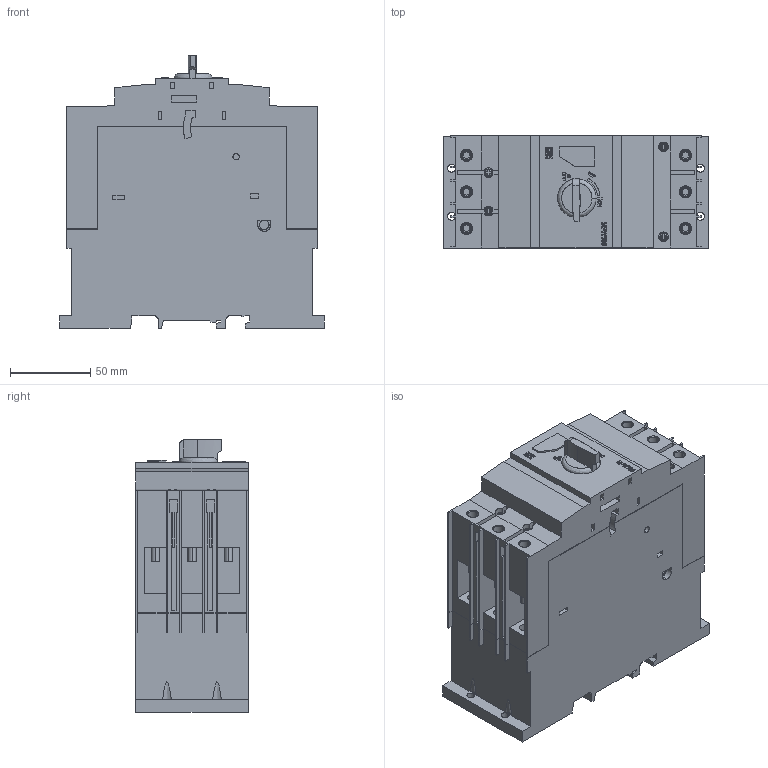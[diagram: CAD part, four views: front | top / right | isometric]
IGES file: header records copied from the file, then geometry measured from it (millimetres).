
Start section: SolidWorks IGES file using analytic representation for surfaces
Global section: file name: Q:\GROUPS\BR_SC_JGS_WA_TECNICO\ENG\Usuarios\Rodrigob\conversão\Disjuntor Motor\Produto\MPW100\MPW100.IGS; native system: SolidWorks 2009; preprocessor: SolidWorks 2009; author: rodrigob; date: 100520.101903; units: millimetre
Bounding box: 165 x 70 x 170 mm (x, y, z)
Surface area: 134023.2 mm2 (no closed solid volume)
Topology: 0 solids, 0 shells, 933 faces, 8931 edges, 8927 vertices
Faces by surface type: bspline 812, revolution 121
